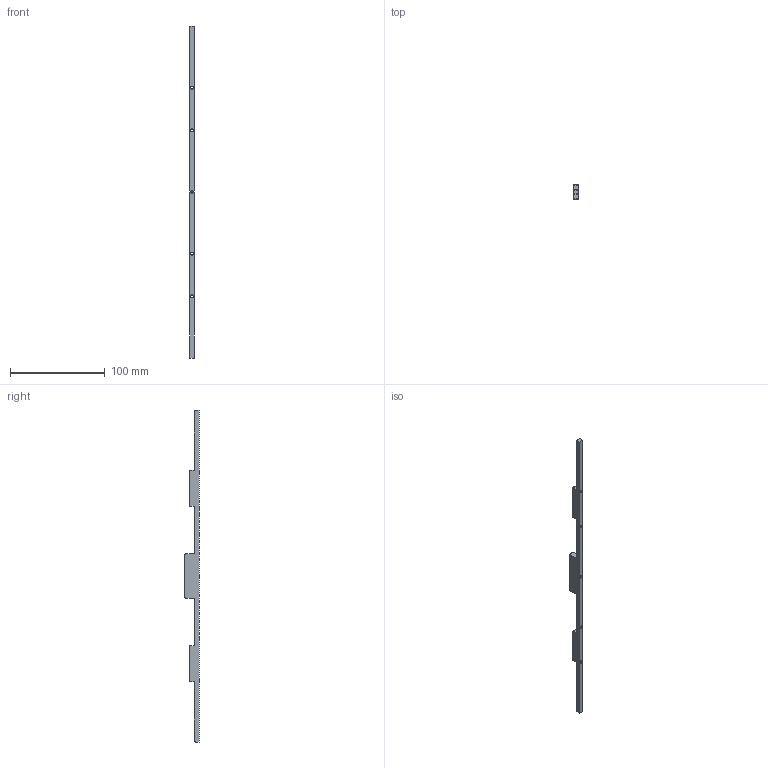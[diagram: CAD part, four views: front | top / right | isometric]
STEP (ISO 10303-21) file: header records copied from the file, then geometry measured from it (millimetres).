
FILE_DESCRIPTION((''),'2;1');
FILE_NAME('0000187057','2024-01-04T12:29:11',('Wyndorps'),(''),'CREO PARAMETRIC BY PTC INC, 2022484','CREO PARAMETRIC BY PTC INC, 2022484','');
FILE_SCHEMA(('CONFIG_CONTROL_DESIGN'));
Length unit declared in the file: millimetre
Products named in the file (1): 0000187057
Bounding box: 5 x 15 x 350 mm (x, y, z)
Volume: 12770.5 mm3; surface area: 9657.2 mm2
Topology: 1 solids, 6 shells, 46 faces, 138 edges, 92 vertices
Faces by surface type: cylinder 28, plane 18
Entity records: 1660 total; most frequent: CARTESIAN_POINT 309, DIRECTION 288, ORIENTED_EDGE 256, EDGE_CURVE 138, AXIS2_PLACEMENT_3D 105, VERTEX_POINT 92, VECTOR 78, LINE 78
